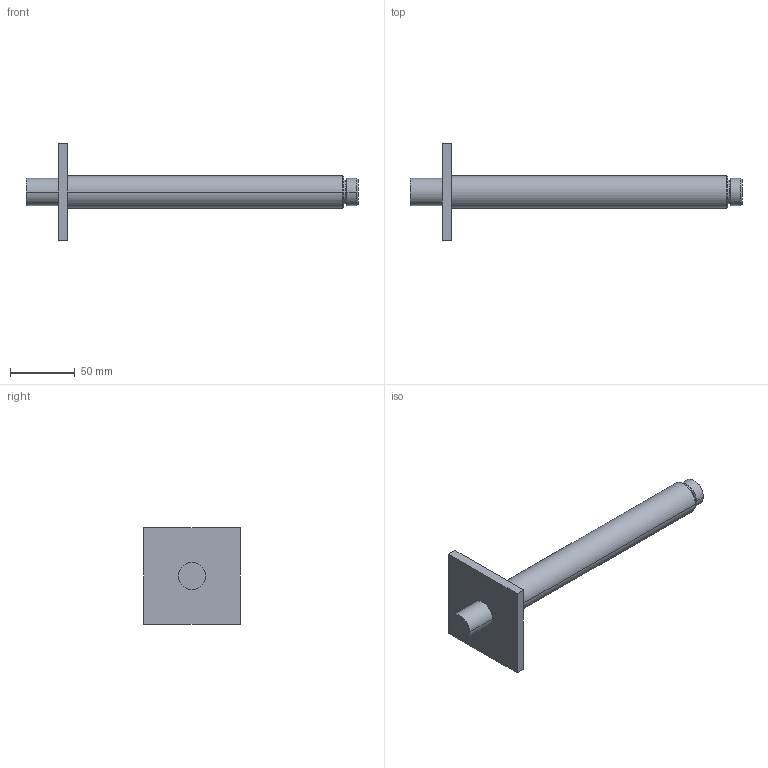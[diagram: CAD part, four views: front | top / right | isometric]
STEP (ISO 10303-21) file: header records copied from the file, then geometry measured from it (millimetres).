
FILE_DESCRIPTION((''),'2;1');
FILE_NAME('122524','2020-03-16T11:16:06',('LF994'),(''),'CREO PARAMETRIC BY PTC INC, 2018500','CREO PARAMETRIC BY PTC INC, 2018500','');
FILE_SCHEMA(('CONFIG_CONTROL_DESIGN'));
Length unit declared in the file: millimetre
Products named in the file (1): 122524
Bounding box: 257 x 75 x 75 mm (x, y, z)
Volume: 160884.6 mm3; surface area: 32952.3 mm2
Topology: 1 solids, 1 shells, 24 faces, 48 edges, 30 vertices
Faces by surface type: plane 10, cylinder 10, cone 4
Entity records: 664 total; most frequent: DIRECTION 118, CARTESIAN_POINT 102, ORIENTED_EDGE 96, EDGE_CURVE 48, AXIS2_PLACEMENT_3D 46, VERTEX_POINT 30, EDGE_LOOP 28, VECTOR 26
